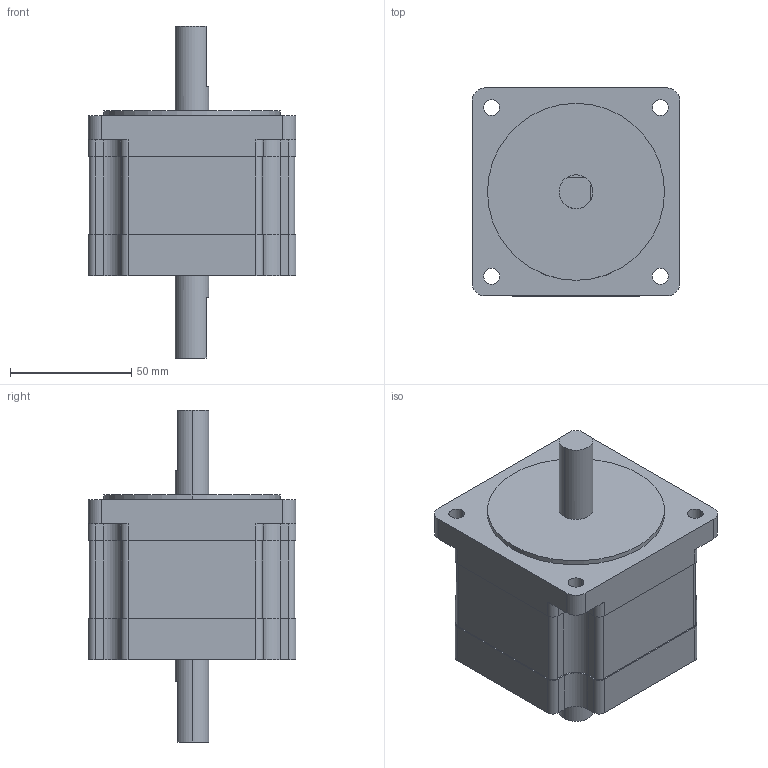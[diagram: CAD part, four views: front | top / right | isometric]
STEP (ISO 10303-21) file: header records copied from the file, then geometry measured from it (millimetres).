
FILE_DESCRIPTION (( 'STEP AP214' ), '1' );
FILE_NAME ('EXMK296-04B.STEP', '2016-09-09T06:08:51', ( 'hoho' ), ( '' ), 'SwSTEP 2.0', 'SolidWorks 2013', '' );
FILE_SCHEMA (( 'AUTOMOTIVE_DESIGN' ));
Length unit declared in the file: millimetre
Products named in the file (1): EXMK296-04B
Bounding box: 85.8 x 85.8 x 137 mm (x, y, z)
Volume: 458307.5 mm3; surface area: 40209.9 mm2
Topology: 1 solids, 1 shells, 109 faces, 306 edges, 204 vertices
Faces by surface type: plane 55, cylinder 54
Entity records: 3892 total; most frequent: DIRECTION 642, CARTESIAN_POINT 620, ORIENTED_EDGE 612, EDGE_CURVE 306, AXIS2_PLACEMENT_3D 226, VERTEX_POINT 204, VECTOR 190, LINE 190
